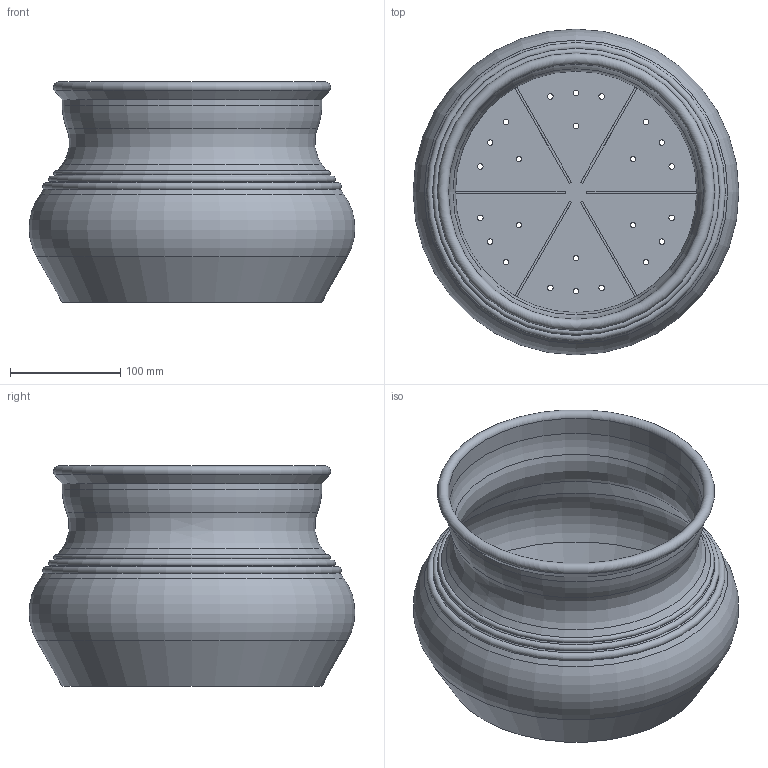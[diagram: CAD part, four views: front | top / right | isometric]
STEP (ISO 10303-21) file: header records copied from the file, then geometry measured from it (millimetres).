
FILE_DESCRIPTION(/* description */ (''),/* implementation_level */ '2;1');
FILE_NAME(/* name */ 'LR2406-S20-H200-D300_step.step',/* time_stamp */ '2024-02-01T11:01:32+01:00',/* author */ (''),/* organization */ (''),/* preprocessor_version */ 'ST-DEVELOPER v20',/* originating_system */ 'Autodesk Translation Framework v12.20.1.177',/* authorisation */ '');
FILE_SCHEMA (('AUTOMOTIVE_DESIGN { 1 0 10303 214 3 1 1 }'));
Length unit declared in the file: millimetre
Products named in the file (1): LR2406-S20-H200-D300
Bounding box: 295.98 x 295.98 x 200 mm (x, y, z)
Volume: 517757.6 mm3; surface area: 453388.6 mm2
Topology: 1 solids, 1 shells, 70 faces, 185 edges, 117 vertices
Faces by surface type: cylinder 32, plane 20, torus 10, cone 8
Full cylindrical faces by diameter (mm): 5 x24, 232 x1, 236 x1
Entity records: 2336 total; most frequent: DIRECTION 430, CARTESIAN_POINT 373, ORIENTED_EDGE 370, EDGE_CURVE 185, AXIS2_PLACEMENT_3D 174, EDGE_LOOP 118, VERTEX_POINT 117, CIRCLE 103
